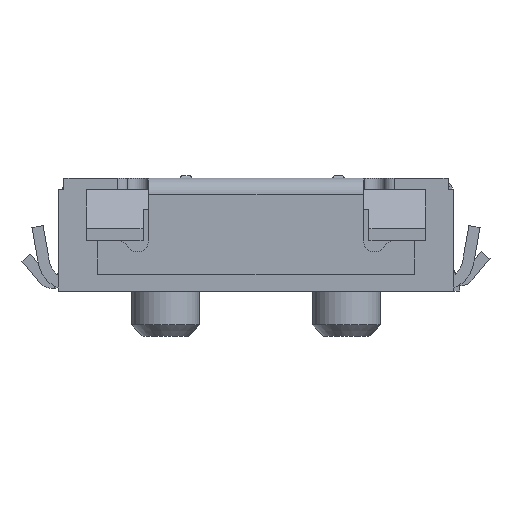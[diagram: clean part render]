
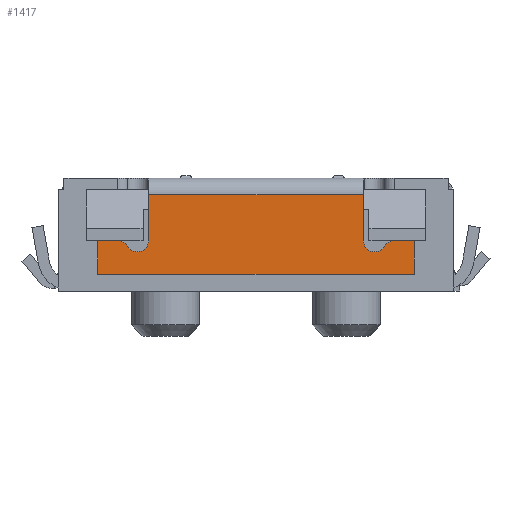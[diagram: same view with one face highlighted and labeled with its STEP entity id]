
A CAD part, front view. The second image highlights one B-rep face of the part: STEP entity #1417.
In plain terms, the highlighted planar face has unit normal (0, -1, 0).
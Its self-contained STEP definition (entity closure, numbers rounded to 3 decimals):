
#1403 = ORIENTED_EDGE ( 'NONE', *, *, #1404, .T. ) ;
#1404 = EDGE_CURVE ( 'NONE', #1431, #1405, #5517, .T. ) ;
#1405 = VERTEX_POINT ( 'NONE', #5512 ) ;
#1406 = ORIENTED_EDGE ( 'NONE', *, *, #1407, .T. ) ;
#1407 = EDGE_CURVE ( 'NONE', #1405, #1408, #5511, .T. ) ;
#1408 = VERTEX_POINT ( 'NONE', #5507 ) ;
#1409 = ORIENTED_EDGE ( 'NONE', *, *, #1410, .T. ) ;
#1410 = EDGE_CURVE ( 'NONE', #1408, #1411, #5506, .T. ) ;
#1411 = VERTEX_POINT ( 'NONE', #5564 ) ;
#1412 = ORIENTED_EDGE ( 'NONE', *, *, #1413, .T. ) ;
#1413 = EDGE_CURVE ( 'NONE', #1411, #1414, #5563, .T. ) ;
#1414 = VERTEX_POINT ( 'NONE', #5559 ) ;
#1415 = ORIENTED_EDGE ( 'NONE', *, *, #1416, .T. ) ;
#1416 = EDGE_CURVE ( 'NONE', #1414, #1472, #5558, .T. ) ;
#1417 = ADVANCED_FACE ( 'NONE', ( #5554 ), #5553, .T. ) ;
#1418 = EDGE_LOOP ( 'NONE', ( #1419, #1423, #1425, #1426, #1429, #1403, #1406, #1409, #1412, #1415, #1473, #1476 ) ) ;
#1419 = ORIENTED_EDGE ( 'NONE', *, *, #1420, .T. ) ;
#1420 = EDGE_CURVE ( 'NONE', #1421, #1422, #5547, .T. ) ;
#1421 = VERTEX_POINT ( 'NONE', #5543 ) ;
#1422 = VERTEX_POINT ( 'NONE', #5542 ) ;
#1423 = ORIENTED_EDGE ( 'NONE', *, *, #1424, .T. ) ;
#1424 = EDGE_CURVE ( 'NONE', #1422, #1637, #5541, .T. ) ;
#1425 = ORIENTED_EDGE ( 'NONE', *, *, #1580, .T. ) ;
#1426 = ORIENTED_EDGE ( 'NONE', *, *, #1427, .T. ) ;
#1427 = EDGE_CURVE ( 'NONE', #1592, #1428, #5537, .T. ) ;
#1428 = VERTEX_POINT ( 'NONE', #5594 ) ;
#1429 = ORIENTED_EDGE ( 'NONE', *, *, #1430, .F. ) ;
#1430 = EDGE_CURVE ( 'NONE', #1431, #1428, #5593, .T. ) ;
#1431 = VERTEX_POINT ( 'NONE', #5588 ) ;
#1472 = VERTEX_POINT ( 'NONE', #5650 ) ;
#1473 = ORIENTED_EDGE ( 'NONE', *, *, #1474, .T. ) ;
#1474 = EDGE_CURVE ( 'NONE', #1472, #1475, #5649, .T. ) ;
#1475 = VERTEX_POINT ( 'NONE', #5645 ) ;
#1476 = ORIENTED_EDGE ( 'NONE', *, *, #1477, .T. ) ;
#1477 = EDGE_CURVE ( 'NONE', #1475, #1421, #5644, .T. ) ;
#1580 = EDGE_CURVE ( 'NONE', #1637, #1592, #5851, .T. ) ;
#1592 = VERTEX_POINT ( 'NONE', #5834 ) ;
#1637 = VERTEX_POINT ( 'NONE', #5941 ) ;
#5503 = DIRECTION ( 'NONE',  ( 0., 0., -1. ) ) ;
#5504 = VECTOR ( 'NONE', #5503, 1000. ) ;
#5505 = CARTESIAN_POINT ( 'NONE',  ( -1.4, -1.575, -0.603 ) ) ;
#5506 = LINE ( 'NONE', #5505, #5504 ) ;
#5507 = CARTESIAN_POINT ( 'NONE',  ( -1.4, -1.575, -0.453 ) ) ;
#5508 = DIRECTION ( 'NONE',  ( -1., 0., 0. ) ) ;
#5509 = VECTOR ( 'NONE', #5508, 1000. ) ;
#5510 = CARTESIAN_POINT ( 'NONE',  ( -1.312, -1.575, -0.453 ) ) ;
#5511 = LINE ( 'NONE', #5510, #5509 ) ;
#5512 = CARTESIAN_POINT ( 'NONE',  ( -1.223, -1.575, -0.453 ) ) ;
#5513 = DIRECTION ( 'NONE',  ( 0., 0., 1. ) ) ;
#5514 = DIRECTION ( 'NONE',  ( 0., -1., 0. ) ) ;
#5515 = CARTESIAN_POINT ( 'NONE',  ( -1.223, -1.575, -0.553 ) ) ;
#5516 = AXIS2_PLACEMENT_3D ( 'NONE', #5515, #5514, #5513 ) ;
#5517 = CIRCLE ( 'NONE', #5516, 0.1 ) ;
#5534 = DIRECTION ( 'NONE',  ( 0., 0., -1. ) ) ;
#5535 = VECTOR ( 'NONE', #5534, 1000. ) ;
#5536 = CARTESIAN_POINT ( 'NONE',  ( -0.95, -1.575, -0.251 ) ) ;
#5537 = LINE ( 'NONE', #5536, #5535 ) ;
#5538 = DIRECTION ( 'NONE',  ( 0., 0., 1. ) ) ;
#5539 = VECTOR ( 'NONE', #5538, 1000. ) ;
#5540 = CARTESIAN_POINT ( 'NONE',  ( 0.95, -1.575, -0.401 ) ) ;
#5541 = LINE ( 'NONE', #5540, #5539 ) ;
#5542 = CARTESIAN_POINT ( 'NONE',  ( 0.95, -1.575, -0.453 ) ) ;
#5543 = CARTESIAN_POINT ( 'NONE',  ( 1.137, -1.575, -0.503 ) ) ;
#5544 = DIRECTION ( 'NONE',  ( 0., 0., 1. ) ) ;
#5545 = DIRECTION ( 'NONE',  ( 0., 1., 0. ) ) ;
#5546 = AXIS2_PLACEMENT_3D ( 'NONE', #5551, #5545, #5544 ) ;
#5547 = CIRCLE ( 'NONE', #5546, 0.1 ) ;
#5548 = DIRECTION ( 'NONE',  ( 1., 0., 0. ) ) ;
#5549 = DIRECTION ( 'NONE',  ( 0., -1., 0. ) ) ;
#5550 = AXIS2_PLACEMENT_3D ( 'NONE', #5552, #5549, #5548 ) ;
#5551 = CARTESIAN_POINT ( 'NONE',  ( 1.05, -1.575, -0.453 ) ) ;
#5552 = CARTESIAN_POINT ( 'NONE',  ( -1.4, -1.575, -0.753 ) ) ;
#5553 = PLANE ( 'NONE',  #5550 ) ;
#5554 = FACE_OUTER_BOUND ( 'NONE', #1418, .T. ) ;
#5555 = DIRECTION ( 'NONE',  ( 0., 0., 1. ) ) ;
#5556 = VECTOR ( 'NONE', #5555, 1000. ) ;
#5557 = CARTESIAN_POINT ( 'NONE',  ( 1.4, -1.575, -0.401 ) ) ;
#5558 = LINE ( 'NONE', #5557, #5556 ) ;
#5559 = CARTESIAN_POINT ( 'NONE',  ( 1.4, -1.575, -0.753 ) ) ;
#5560 = DIRECTION ( 'NONE',  ( 1., 0., 0. ) ) ;
#5561 = VECTOR ( 'NONE', #5560, 1000. ) ;
#5562 = CARTESIAN_POINT ( 'NONE',  ( 0., -1.575, -0.753 ) ) ;
#5563 = LINE ( 'NONE', #5562, #5561 ) ;
#5564 = CARTESIAN_POINT ( 'NONE',  ( -1.4, -1.575, -0.753 ) ) ;
#5588 = CARTESIAN_POINT ( 'NONE',  ( -1.137, -1.575, -0.503 ) ) ;
#5589 = DIRECTION ( 'NONE',  ( 0., 0., 1. ) ) ;
#5590 = DIRECTION ( 'NONE',  ( 0., -1., 0. ) ) ;
#5591 = CARTESIAN_POINT ( 'NONE',  ( -1.05, -1.575, -0.453 ) ) ;
#5592 = AXIS2_PLACEMENT_3D ( 'NONE', #5591, #5590, #5589 ) ;
#5593 = CIRCLE ( 'NONE', #5592, 0.1 ) ;
#5594 = CARTESIAN_POINT ( 'NONE',  ( -0.95, -1.575, -0.453 ) ) ;
#5640 = DIRECTION ( 'NONE',  ( 0., 0., 1. ) ) ;
#5641 = DIRECTION ( 'NONE',  ( 0., -1., 0. ) ) ;
#5642 = CARTESIAN_POINT ( 'NONE',  ( 1.223, -1.575, -0.553 ) ) ;
#5643 = AXIS2_PLACEMENT_3D ( 'NONE', #5642, #5641, #5640 ) ;
#5644 = CIRCLE ( 'NONE', #5643, 0.1 ) ;
#5645 = CARTESIAN_POINT ( 'NONE',  ( 1.223, -1.575, -0.453 ) ) ;
#5646 = DIRECTION ( 'NONE',  ( -1., 0., 0. ) ) ;
#5647 = VECTOR ( 'NONE', #5646, 1000. ) ;
#5648 = CARTESIAN_POINT ( 'NONE',  ( 0., -1.575, -0.453 ) ) ;
#5649 = LINE ( 'NONE', #5648, #5647 ) ;
#5650 = CARTESIAN_POINT ( 'NONE',  ( 1.4, -1.575, -0.453 ) ) ;
#5834 = CARTESIAN_POINT ( 'NONE',  ( -0.95, -1.575, -0.05 ) ) ;
#5848 = DIRECTION ( 'NONE',  ( -1., 0., 0. ) ) ;
#5849 = VECTOR ( 'NONE', #5848, 1000. ) ;
#5850 = CARTESIAN_POINT ( 'NONE',  ( 0., -1.575, -0.05 ) ) ;
#5851 = LINE ( 'NONE', #5850, #5849 ) ;
#5941 = CARTESIAN_POINT ( 'NONE',  ( 0.95, -1.575, -0.05 ) ) ;
